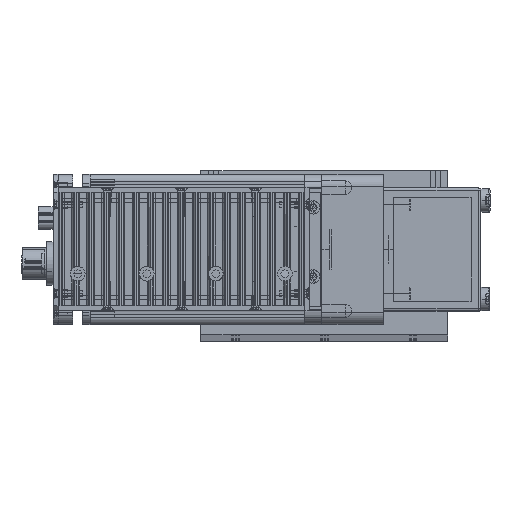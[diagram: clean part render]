
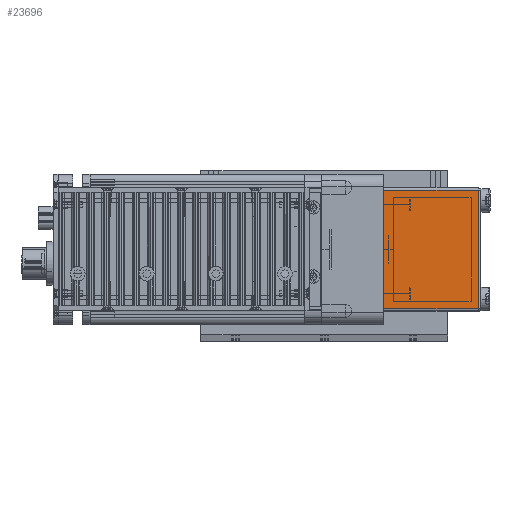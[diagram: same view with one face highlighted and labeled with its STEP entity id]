
A CAD part, top view. The second image highlights one B-rep face of the part: STEP entity #23696.
In plain terms, the highlighted planar face has unit normal (0, 0, 1) as drawn and (1, 0, 0) by its records, which use the part's own axes.
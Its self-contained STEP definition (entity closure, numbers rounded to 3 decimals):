
#22686 = VERTEX_POINT ( 'NONE', #40665 ) ;
#22729 = VERTEX_POINT ( 'NONE', #40780 ) ;
#22743 = VERTEX_POINT ( 'NONE', #40760 ) ;
#22778 = VERTEX_POINT ( 'NONE', #40899 ) ;
#22880 = EDGE_CURVE ( 'NONE', #22729, #22778, #41096, .T. ) ;
#23498 = ORIENTED_EDGE ( 'NONE', *, *, #22880, .F. ) ;
#23512 = ORIENTED_EDGE ( 'NONE', *, *, #23714, .T. ) ;
#23533 = EDGE_LOOP ( 'NONE', ( #23663, #23512, #23498, #23687 ) ) ;
#23594 = EDGE_CURVE ( 'NONE', #22686, #22729, #42451, .T. ) ;
#23663 = ORIENTED_EDGE ( 'NONE', *, *, #23771, .F. ) ;
#23687 = ORIENTED_EDGE ( 'NONE', *, *, #23594, .F. ) ;
#23696 = ADVANCED_FACE ( 'NONE', ( #42665 ), #42677, .F. ) ;
#23714 = EDGE_CURVE ( 'NONE', #22743, #22778, #42759, .T. ) ;
#23771 = EDGE_CURVE ( 'NONE', #22743, #22686, #42846, .T. ) ;
#40665 = CARTESIAN_POINT ( 'NONE',  ( 62., -24., 38.5 ) ) ;
#40760 = CARTESIAN_POINT ( 'NONE',  ( 62., -24., 0. ) ) ;
#40780 = CARTESIAN_POINT ( 'NONE',  ( 62., 24., 38.5 ) ) ;
#40899 = CARTESIAN_POINT ( 'NONE',  ( 62., 24., 0. ) ) ;
#41090 = DIRECTION ( 'NONE',  ( 0., 0., -1. ) ) ;
#41091 = VECTOR ( 'NONE', #41090, 1000. ) ;
#41092 = CARTESIAN_POINT ( 'NONE',  ( 62., 24., 39.5 ) ) ;
#41096 = LINE ( 'NONE', #41092, #41091 ) ;
#42450 = CARTESIAN_POINT ( 'NONE',  ( 62., -25., 38.5 ) ) ;
#42451 = LINE ( 'NONE', #42450, #42507 ) ;
#42506 = DIRECTION ( 'NONE',  ( 0., 1., 0. ) ) ;
#42507 = VECTOR ( 'NONE', #42506, 1000. ) ;
#42664 = AXIS2_PLACEMENT_3D ( 'NONE', #42670, #42725, #42724 ) ;
#42665 = FACE_OUTER_BOUND ( 'NONE', #23533, .T. ) ;
#42670 = CARTESIAN_POINT ( 'NONE',  ( 62., 25., 39.5 ) ) ;
#42677 = PLANE ( 'NONE',  #42664 ) ;
#42724 = DIRECTION ( 'NONE',  ( 0., -1., 0. ) ) ;
#42725 = DIRECTION ( 'NONE',  ( -1., 0., 0. ) ) ;
#42745 = DIRECTION ( 'NONE',  ( 0., 1., 0. ) ) ;
#42746 = VECTOR ( 'NONE', #42745, 1000. ) ;
#42747 = CARTESIAN_POINT ( 'NONE',  ( 62., -25., 0. ) ) ;
#42759 = LINE ( 'NONE', #42747, #42746 ) ;
#42829 = DIRECTION ( 'NONE',  ( 0., 0., 1. ) ) ;
#42834 = VECTOR ( 'NONE', #42829, 1000. ) ;
#42845 = CARTESIAN_POINT ( 'NONE',  ( 62., -24., 39.5 ) ) ;
#42846 = LINE ( 'NONE', #42845, #42834 ) ;
